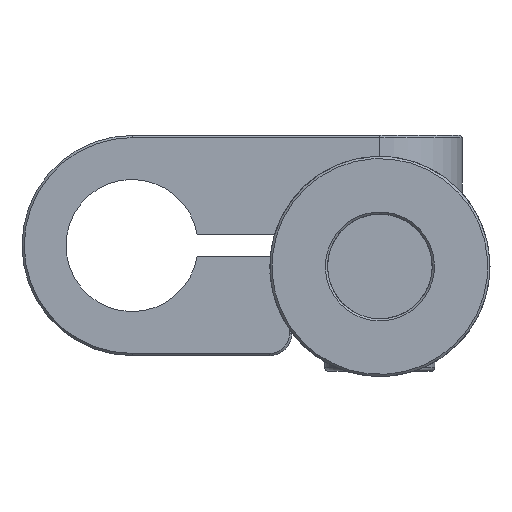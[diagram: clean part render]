
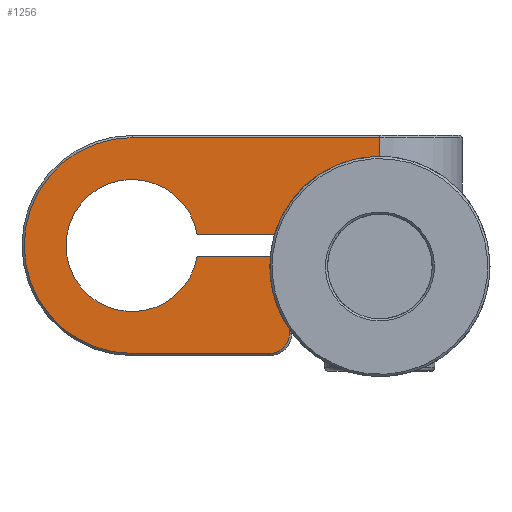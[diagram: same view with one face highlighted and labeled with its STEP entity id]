
A CAD part, front view. The second image highlights one B-rep face of the part: STEP entity #1256.
In plain terms, the highlighted planar face has unit normal (0, -1, 0).
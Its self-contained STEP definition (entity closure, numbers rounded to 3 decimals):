
#1256=ADVANCED_FACE('',(#1549),#1488,.F.);
#1488=PLANE('',#4774);
#1549=FACE_OUTER_BOUND('',#1762,.T.);
#1762=EDGE_LOOP('',(#2484,#2485,#2486,#2487,#2488,#2489,#2490,#2491,#2492,
#2493,#2494));
#2014=LINE('',#6430,#2249);
#2015=LINE('',#6434,#2250);
#2016=LINE('',#6436,#2251);
#2017=LINE('',#6438,#2252);
#2018=LINE('',#6442,#2253);
#2019=LINE('',#6446,#2254);
#2020=LINE('',#6448,#2255);
#2249=VECTOR('',#5247,1.);
#2250=VECTOR('',#5250,1.);
#2251=VECTOR('',#5251,1.);
#2252=VECTOR('',#5252,1.);
#2253=VECTOR('',#5255,1.);
#2254=VECTOR('',#5258,1.);
#2255=VECTOR('',#5259,1.);
#2484=ORIENTED_EDGE('',*,*,#3959,.F.);
#2485=ORIENTED_EDGE('',*,*,#3960,.F.);
#2486=ORIENTED_EDGE('',*,*,#3961,.T.);
#2487=ORIENTED_EDGE('',*,*,#3962,.T.);
#2488=ORIENTED_EDGE('',*,*,#3963,.F.);
#2489=ORIENTED_EDGE('',*,*,#3964,.T.);
#2490=ORIENTED_EDGE('',*,*,#3965,.T.);
#2491=ORIENTED_EDGE('',*,*,#3966,.T.);
#2492=ORIENTED_EDGE('',*,*,#3967,.T.);
#2493=ORIENTED_EDGE('',*,*,#3968,.T.);
#2494=ORIENTED_EDGE('',*,*,#3969,.F.);
#3606=VERTEX_POINT('',#6428);
#3607=VERTEX_POINT('',#6429);
#3608=VERTEX_POINT('',#6431);
#3609=VERTEX_POINT('',#6433);
#3610=VERTEX_POINT('',#6435);
#3611=VERTEX_POINT('',#6437);
#3612=VERTEX_POINT('',#6439);
#3613=VERTEX_POINT('',#6441);
#3614=VERTEX_POINT('',#6443);
#3615=VERTEX_POINT('',#6445);
#3616=VERTEX_POINT('',#6447);
#3959=EDGE_CURVE('',#3606,#3607,#4520,.T.);
#3960=EDGE_CURVE('',#3608,#3606,#2014,.T.);
#3961=EDGE_CURVE('',#3608,#3609,#4521,.T.);
#3962=EDGE_CURVE('',#3609,#3610,#2015,.T.);
#3963=EDGE_CURVE('',#3611,#3610,#2016,.T.);
#3964=EDGE_CURVE('',#3611,#3612,#2017,.T.);
#3965=EDGE_CURVE('',#3612,#3613,#4522,.T.);
#3966=EDGE_CURVE('',#3613,#3614,#2018,.T.);
#3967=EDGE_CURVE('',#3614,#3615,#4523,.T.);
#3968=EDGE_CURVE('',#3615,#3616,#2019,.T.);
#3969=EDGE_CURVE('',#3607,#3616,#2020,.T.);
#4520=CIRCLE('',#4770,6.);
#4521=CIRCLE('',#4771,1.2);
#4522=CIRCLE('',#4772,9.8);
#4523=CIRCLE('',#4773,1.8);
#4770=AXIS2_PLACEMENT_3D('',#6427,#5245,#5246);
#4771=AXIS2_PLACEMENT_3D('',#6432,#5248,#5249);
#4772=AXIS2_PLACEMENT_3D('',#6440,#5253,#5254);
#4773=AXIS2_PLACEMENT_3D('',#6444,#5256,#5257);
#4774=AXIS2_PLACEMENT_3D('',#6449,#5260,#5261);
#5245=DIRECTION('',(0.,-1.,0.));
#5246=DIRECTION('',(1.,0.,0.));
#5247=DIRECTION('',(-1.,0.,0.));
#5248=DIRECTION('',(0.,1.,0.));
#5249=DIRECTION('',(0.,0.,1.));
#5250=DIRECTION('',(1.,0.,0.));
#5251=DIRECTION('',(0.,0.,-1.));
#5252=DIRECTION('',(-1.,0.,0.));
#5253=DIRECTION('',(0.,-1.,0.));
#5254=DIRECTION('',(0.,0.,1.));
#5255=DIRECTION('',(1.,0.,0.));
#5256=DIRECTION('',(0.,-1.,0.));
#5257=DIRECTION('',(0.,0.,1.));
#5258=DIRECTION('',(0.,0.,1.));
#5259=DIRECTION('',(1.,0.,0.));
#5260=DIRECTION('',(0.,1.,0.));
#5261=DIRECTION('',(0.,0.,1.));
#6427=CARTESIAN_POINT('',(-15.,4.,-1.6));
#6428=CARTESIAN_POINT('',(-9.084,4.,-0.6));
#6429=CARTESIAN_POINT('',(-9.084,4.,-2.6));
#6430=CARTESIAN_POINT('',(-5.,4.,-0.6));
#6431=CARTESIAN_POINT('',(-0.7,4.,-0.6));
#6432=CARTESIAN_POINT('',(0.5,4.,-0.6));
#6433=CARTESIAN_POINT('',(0.5,4.,0.6));
#6434=CARTESIAN_POINT('',(-5.,4.,0.6));
#6435=CARTESIAN_POINT('',(7.5,4.,0.6));
#6436=CARTESIAN_POINT('',(7.5,4.,-1.6));
#6437=CARTESIAN_POINT('',(7.5,4.,8.2));
#6438=CARTESIAN_POINT('',(-5.,4.,8.2));
#6439=CARTESIAN_POINT('',(-15.,4.,8.2));
#6440=CARTESIAN_POINT('',(-15.,4.,-1.6));
#6441=CARTESIAN_POINT('',(-15.,4.,-11.4));
#6442=CARTESIAN_POINT('',(-5.,4.,-11.4));
#6443=CARTESIAN_POINT('',(-2.5,4.,-11.4));
#6444=CARTESIAN_POINT('',(-2.5,4.,-9.6));
#6445=CARTESIAN_POINT('',(-0.7,4.,-9.6));
#6446=CARTESIAN_POINT('',(-0.7,4.,-1.6));
#6447=CARTESIAN_POINT('',(-0.7,4.,-2.6));
#6448=CARTESIAN_POINT('',(-5.,4.,-2.6));
#6449=CARTESIAN_POINT('',(-5.,4.,-1.6));
